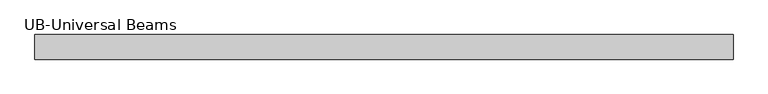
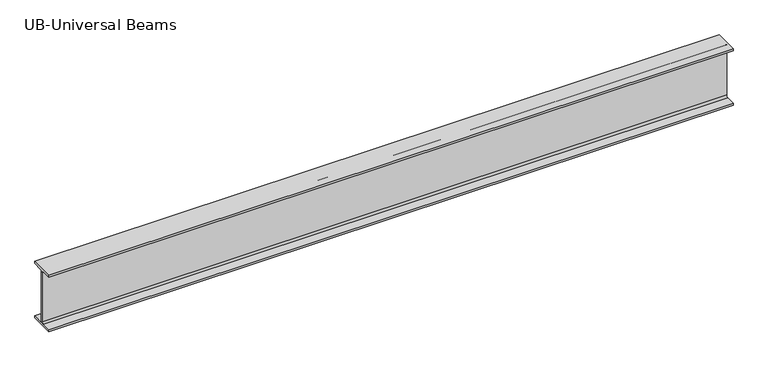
"""IFC4 building model written with IfcOpenShell, lengths in millimetres: beam geometry."""

from ifc_helpers import new_model, si_unit, point, frame, frame_2d, origin, place, context, project, spatial, polyline, circle_curve, trimmed, segment, composite_curve, outline, extrude, source, transform, mapped, element, save


def ub_universal_beams_16a75a32(model_context):
    return source(origin(), model_context, "Body", "SweptSolid", [
        extrude(outline(composite_curve([segment(polyline([(61.7, -141.5), (61.7, -152.2), (-61.7, -152.2), (-61.7, -141.5), (-12.45, -141.5)]), True, "CONTINUOUS"), segment(trimmed(circle_curve(frame_2d((-12.45, -132.6)), 8.9), [point((-12.45, -141.5))], [point((-3.55, -132.6))], True, "CARTESIAN"), True, "CONTINUOUS"), segment(polyline([(-3.55, -132.6), (-3.55, 132.6)]), True, "CONTINUOUS"), segment(trimmed(circle_curve(frame_2d((-12.45, 132.6)), 8.9), [point((-3.55, 132.6))], [point((-12.45, 141.5))], True, "CARTESIAN"), True, "CONTINUOUS"), segment(polyline([(-12.45, 141.5), (-61.7, 141.5), (-61.7, 152.2), (61.7, 152.2), (61.7, 141.5), (12.45, 141.5)]), True, "CONTINUOUS"), segment(trimmed(circle_curve(frame_2d((12.45, 132.6)), 8.9), [point((12.45, 141.5))], [point((3.55, 132.6))], True, "CARTESIAN"), True, "CONTINUOUS"), segment(polyline([(3.55, 132.6), (3.55, -132.6)]), True, "CONTINUOUS"), segment(trimmed(circle_curve(frame_2d((12.45, -132.6)), 8.9), [point((3.55, -132.6))], [point((12.45, -141.5))], True, "CARTESIAN"), True, "CONTINUOUS"), segment(polyline([(12.45, -141.5), (61.7, -141.5)]), True, "CONTINUOUS")], self_intersect=False)), frame((-1749.8, 0.0, 0.0), z_axis=(1.0, 0.0, 0.0), x_axis=(0.0, 1.0, 0.0)), (0.0, 0.0, 1.0), 3495.2),
    ])


if __name__ == "__main__":
    model = new_model("IFC4")
    model_context = context("Model", 3, world=origin())
    ifc_project = project(units=[si_unit("LENGTHUNIT", "METRE", prefix="MILLI")], contexts=[model_context])
    site = spatial("IfcSite", under=ifc_project)
    building = spatial("IfcBuilding", under=site)
    placement = place(None, origin())
    ub_universal_beams_shape = ub_universal_beams_16a75a32(model_context)
    element("IfcBeam", 1, ObjectType="UB-Universal Beams : UB 12\" x 5\" x 1 1/2\"", at=placement, inside=building, context=model_context, shape_type="MappedRepresentation", body=[
        mapped(ub_universal_beams_shape, transform((0.0, 0.0, 0.0), x_axis=(1.0, 0.0, 0.0), y_axis=(0.0, 1.0, 0.0), z_axis=(0.0, 0.0, 1.0))),
    ])
    save(model, "model.ifc")
